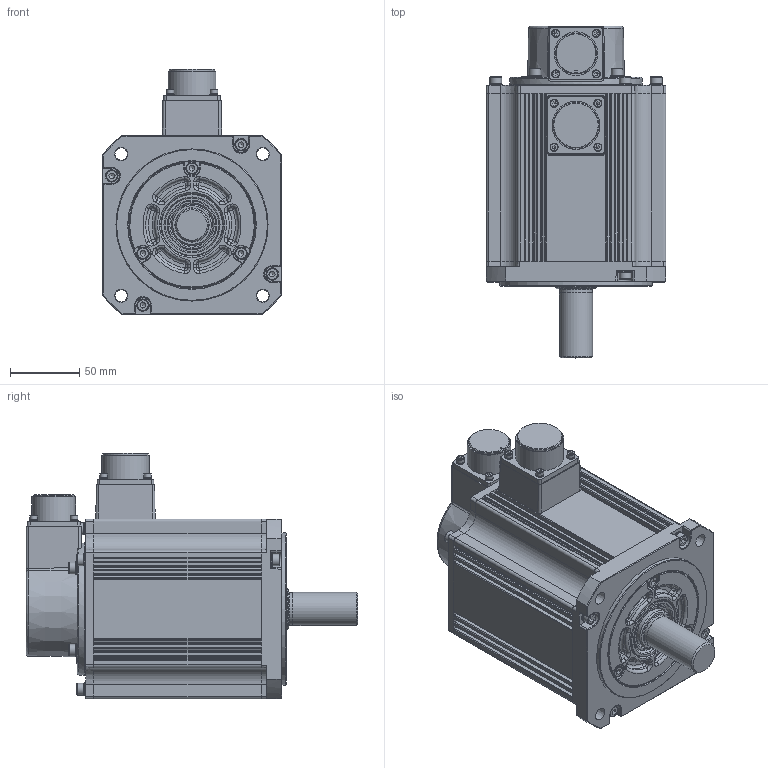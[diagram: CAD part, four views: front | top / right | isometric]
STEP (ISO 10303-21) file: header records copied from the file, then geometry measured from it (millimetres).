
FILE_DESCRIPTION((''),'2;1');
FILE_NAME('C:\Documents and Settings\11644\桌面\L300\SME-L300.stp','2016-07-15T18:29:22',('11644'),(''),'Autodesk Inventor 2008','Autodesk Inventor 2008','');
FILE_SCHEMA(('AUTOMOTIVE_DESIGN { 1 0 10303 214 1 1 1 1 }'));
Length unit declared in the file: millimetre
Products named in the file (2): SME-L300; 零件444_4
Assembly tree (1 placements, depth 2):
  SME-L300
    零件444_4
Bounding box: 130 x 240 x 177.7 mm (x, y, z)
Volume: 2460738.2 mm3; surface area: 167145.4 mm2
Topology: 1 solids, 1 shells, 997 faces, 2376 edges, 1435 vertices
Faces by surface type: plane 454, cylinder 295, torus 128, cone 69, sphere 32, bspline 19
Full cylindrical faces by diameter (mm): 5.5 x8, 5.82 x8, 8.5 x15, 8.97 x15, 23.8 x1, 24 x1, 29.5 x1, 30 x1, 31.5 x1, 33 x1, 34.7 x1, 35.319 x1, 40.504 x1, 45 x1, 92 x1, 95.8 x1, 110 x1
Entity records: 29675 total; most frequent: CARTESIAN_POINT 6546, DIRECTION 4769, ORIENTED_EDGE 4312, EDGE_CURVE 2156, AXIS2_PLACEMENT_3D 1834, VERTEX_POINT 1403, EDGE_LOOP 1247, VECTOR 1101
